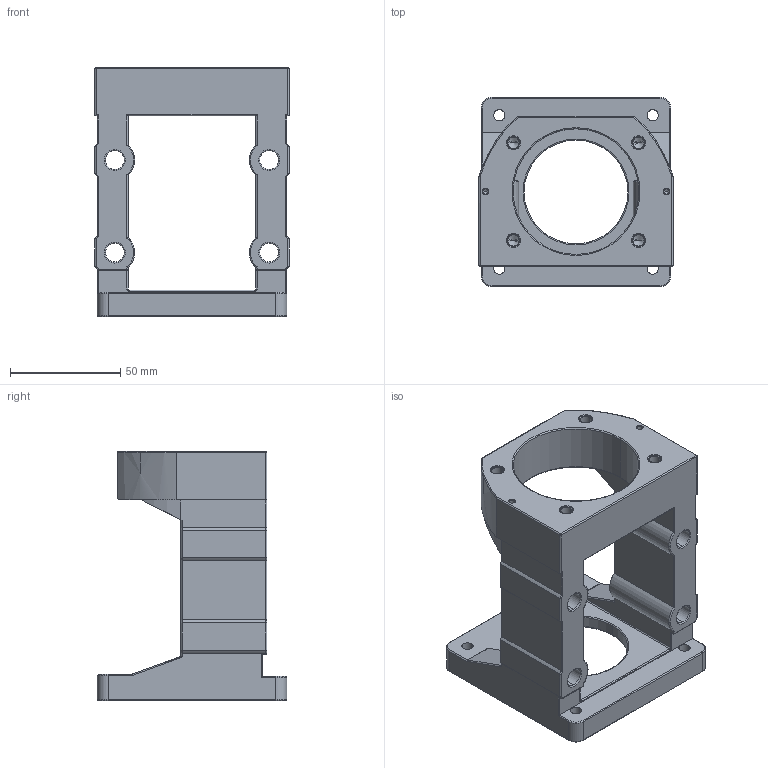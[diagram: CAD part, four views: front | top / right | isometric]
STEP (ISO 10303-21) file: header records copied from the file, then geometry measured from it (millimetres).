
FILE_DESCRIPTION (( 'STEP AP203' ), '1' );
FILE_NAME ('MBA20-F.STEP', '2019-01-02T03:42:44', ( '' ), ( '' ), 'SwSTEP 2.0', 'SolidWorks 2018', '' );
FILE_SCHEMA (( 'CONFIG_CONTROL_DESIGN' ));
Length unit declared in the file: millimetre
Products named in the file (1): MBA20-F
Bounding box: 88 x 86 x 113 mm (x, y, z)
Volume: 203770.2 mm3; surface area: 54517.3 mm2
Topology: 1 solids, 1 shells, 285 faces, 683 edges, 394 vertices
Faces by surface type: cylinder 113, plane 62, torus 57, cone 49, bspline 2, sphere 2
Entity records: 8368 total; most frequent: CARTESIAN_POINT 1690, DIRECTION 1470, ORIENTED_EDGE 1338, EDGE_CURVE 669, AXIS2_PLACEMENT_3D 590, VERTEX_POINT 394, EDGE_LOOP 315, CIRCLE 306
